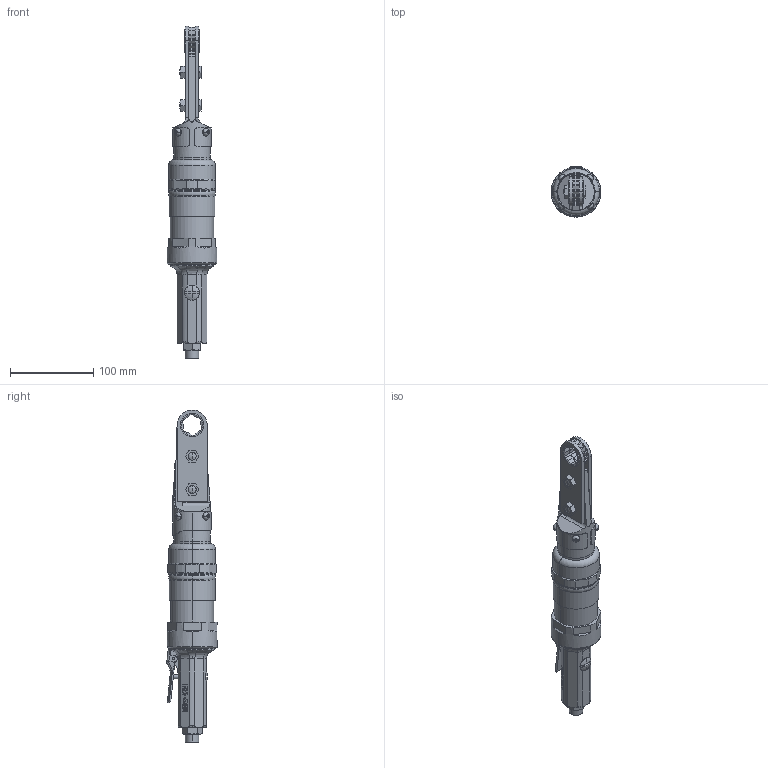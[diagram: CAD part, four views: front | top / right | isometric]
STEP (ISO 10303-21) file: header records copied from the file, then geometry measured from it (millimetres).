
FILE_DESCRIPTION (( 'STEP AP203' ), '1' );
FILE_NAME ('URW-12N.STEP', '2006-02-15T00:16:44', ( '' ), ( '' ), 'SwSTEP 2.0', 'SolidWorks 2004073', '' );
FILE_SCHEMA (( 'CONFIG_CONTROL_DESIGN' ));
Length unit declared in the file: millimetre
Products named in the file (7): 2031071_蹬怮椔; 2031001_蹬怮椔; URW-12N; 2156561_蹬怮椔; 2033811_蹬怮椔; 2030251_蹬怮椔; 2030112_蹬怮椔
Assembly tree (6 placements, depth 2):
  URW-12N
    2030112_蹬怮椔
    2031071_蹬怮椔
    2030251_蹬怮椔
    2031001_蹬怮椔
    2156561_蹬怮椔
    2033811_蹬怮椔
Bounding box: 60 x 60.33 x 398.6 mm (x, y, z)
Volume: 542433.1 mm3; surface area: 78240.5 mm2
Topology: 6 solids, 6 shells, 699 faces, 1901 edges, 1249 vertices
Faces by surface type: plane 376, cylinder 221, bspline 39, torus 39, cone 18, sphere 6
Entity records: 29644 total; most frequent: CARTESIAN_POINT 11537, ORIENTED_EDGE 3802, DIRECTION 3433, EDGE_CURVE 1901, VERTEX_POINT 1249, AXIS2_PLACEMENT_3D 1197, VECTOR 1039, LINE 1039
